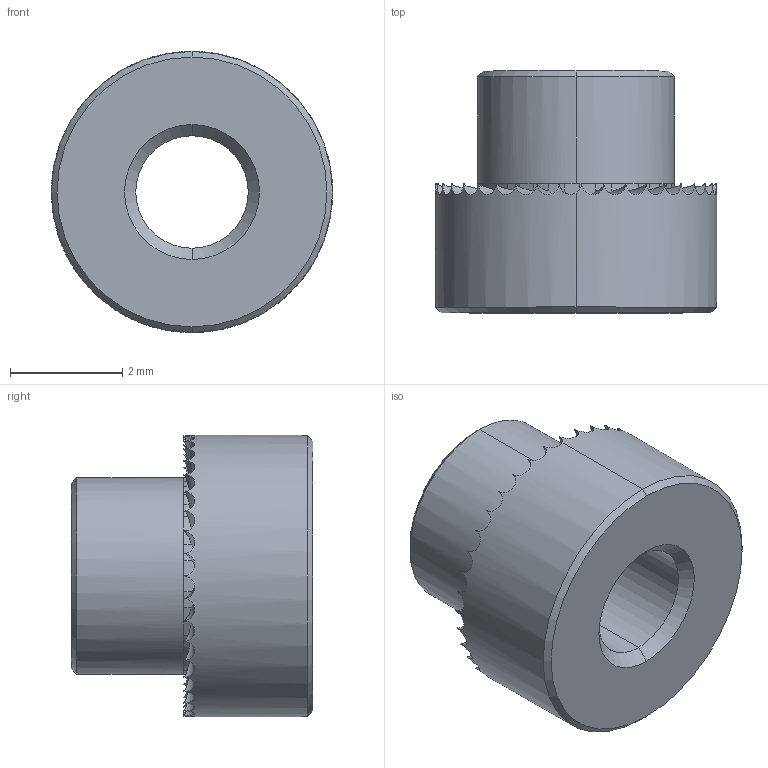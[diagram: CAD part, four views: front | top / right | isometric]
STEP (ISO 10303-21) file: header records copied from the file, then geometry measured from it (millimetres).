
FILE_DESCRIPTION (( 'STEP AP203' ), '1' );
FILE_NAME ('P0829.020-16G-ZP.step', '2019-03-21T22:09:27', ( '' ), ( '' ), 'SwSTEP 2.0', 'SolidWorks 2017', '' );
FILE_SCHEMA (( 'CONFIG_CONTROL_DESIGN' ));
Length unit declared in the file: millimetre
Products named in the file (1): P0829.020-16G-ZP
Bounding box: 5 x 4.3 x 5 mm (x, y, z)
Volume: 48.8 mm3; surface area: 117.1 mm2
Topology: 1 solids, 1 shells, 172 faces, 424 edges, 254 vertices
Faces by surface type: plane 119, cylinder 45, cone 8
Entity records: 5343 total; most frequent: CARTESIAN_POINT 1317, ORIENTED_EDGE 848, DIRECTION 825, EDGE_CURVE 424, AXIS2_PLACEMENT_3D 308, VERTEX_POINT 254, LINE 209, VECTOR 209
